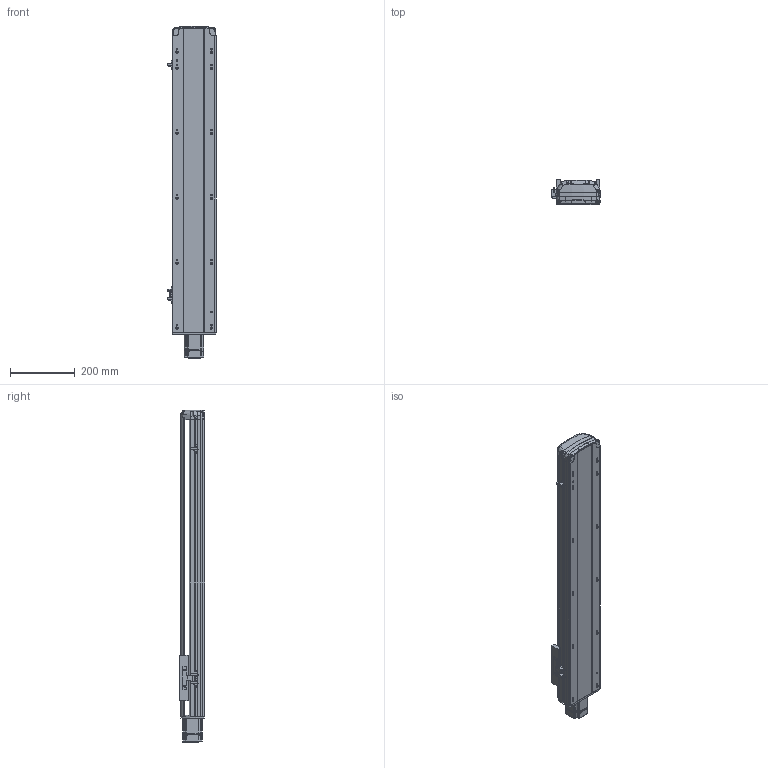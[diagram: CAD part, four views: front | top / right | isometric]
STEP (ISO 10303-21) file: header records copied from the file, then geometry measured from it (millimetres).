
FILE_DESCRIPTION (( 'STEP AP214' ), '1' );
FILE_NAME ('RTH14-XX-700-E-M20-C4.STEP', '2025-10-24T09:11:22', ( 'Microsoft' ), ( 'Microsoft' ), 'SwSTEP 2.0', 'SolidWorks 2018', '' );
FILE_SCHEMA (( 'AUTOMOTIVE_DESIGN' ));
Length unit declared in the file: millimetre
Products named in the file (9): N_OMRON EE-SX672 传感器^RTH14-XX-XX-E-M20-C4; N_RTH14-GY-001P^RTH14-XX-XX-E-M20-C4; N_RTH14-E-011P菁釱^RTH14-XX-XX-E-M20-C4; N_RTH13-L-012感应片（外置）^RTH14-XX-XX-E-M20-C4; N_RTH13-E-008萇儂耜猾裔^RTH14-XX-XX-E-M20-C4; RTH14-XX-700-E-M20-C4; N_MSMD022P1AA_200W^RTH14-XX-XX-E-M20-C4; N_RTH14-R-004-SFSR16賑釱^RTH14-XX-XX-E-M20-C4; N_RTH14-E-007P奻裔^RTH14-XX-XX-E-M20-C4
Assembly tree (10 placements, depth 2):
  RTH14-XX-700-E-M20-C4
    N_RTH14-E-011P菁釱^RTH14-XX-XX-E-M20-C4
    N_RTH14-E-007P奻裔^RTH14-XX-XX-E-M20-C4
    N_MSMD022P1AA_200W^RTH14-XX-XX-E-M20-C4
    N_RTH13-L-012感应片（外置）^RTH14-XX-XX-E-M20-C4
    N_OMRON EE-SX672 传感器^RTH14-XX-XX-E-M20-C4  x3
    N_RTH13-E-008萇儂耜猾裔^RTH14-XX-XX-E-M20-C4
    N_RTH14-R-004-SFSR16賑釱^RTH14-XX-XX-E-M20-C4
    N_RTH14-GY-001P^RTH14-XX-XX-E-M20-C4
Bounding box: 148.5 x 78.03 x 1022.49 mm (x, y, z)
Volume: 4235820.1 mm3; surface area: 933707.3 mm2
Topology: 10 solids, 10 shells, 1881 faces, 5296 edges, 3480 vertices
Faces by surface type: plane 979, cylinder 512, bspline 341, cone 45, torus 4
Entity records: 57742 total; most frequent: CARTESIAN_POINT 22986, ORIENTED_EDGE 7660, DIRECTION 6205, EDGE_CURVE 3830, VERTEX_POINT 2516, VECTOR 2181, LINE 2181, AXIS2_PLACEMENT_3D 2012
